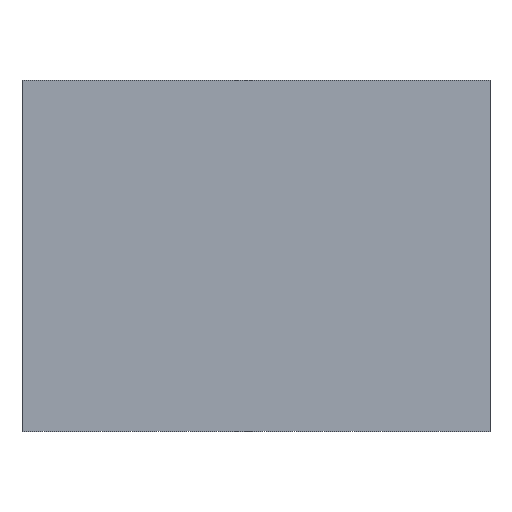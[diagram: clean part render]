
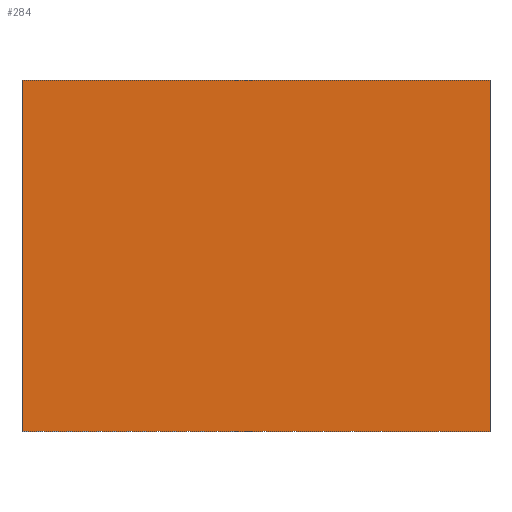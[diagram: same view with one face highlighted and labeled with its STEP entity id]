
A CAD part, left-side view. The second image highlights one B-rep face of the part: STEP entity #284.
In plain terms, the highlighted planar face has unit normal (-1, 0, 0).
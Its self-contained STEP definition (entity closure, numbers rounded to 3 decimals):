
#21 = EDGE_CURVE('',#22,#24,#26,.T.);
#22 = VERTEX_POINT('',#23);
#23 = CARTESIAN_POINT('',(278.258,-84.913,12.828
    ));
#24 = VERTEX_POINT('',#25);
#25 = CARTESIAN_POINT('',(278.258,-84.913,18.828
    ));
#26 = SURFACE_CURVE('',#27,(#31,#43),.PCURVE_S1.);
#27 = LINE('',#28,#29);
#28 = CARTESIAN_POINT('',(278.258,-84.913,12.828
    ));
#29 = VECTOR('',#30,1.);
#30 = DIRECTION('',(0.,0.,1.));
#31 = PCURVE('',#32,#37);
#32 = PLANE('',#33);
#33 = AXIS2_PLACEMENT_3D('',#34,#35,#36);
#34 = CARTESIAN_POINT('',(278.258,-84.913,12.828
    ));
#35 = DIRECTION('',(0.,1.,0.));
#36 = DIRECTION('',(1.,0.,0.));
#37 = DEFINITIONAL_REPRESENTATION('',(#38),#42);
#38 = LINE('',#39,#40);
#39 = CARTESIAN_POINT('',(0.,0.));
#40 = VECTOR('',#41,1.);
#41 = DIRECTION('',(0.,-1.));
#42 = ( GEOMETRIC_REPRESENTATION_CONTEXT(2) 
PARAMETRIC_REPRESENTATION_CONTEXT() REPRESENTATION_CONTEXT('2D SPACE',''
  ) );
#43 = PCURVE('',#44,#49);
#44 = PLANE('',#45);
#45 = AXIS2_PLACEMENT_3D('',#46,#47,#48);
#46 = CARTESIAN_POINT('',(278.258,-92.913,12.828
    ));
#47 = DIRECTION('',(-1.,0.,0.));
#48 = DIRECTION('',(0.,1.,0.));
#49 = DEFINITIONAL_REPRESENTATION('',(#50),#54);
#50 = LINE('',#51,#52);
#51 = CARTESIAN_POINT('',(8.,0.));
#52 = VECTOR('',#53,1.);
#53 = DIRECTION('',(0.,-1.));
#54 = ( GEOMETRIC_REPRESENTATION_CONTEXT(2) 
PARAMETRIC_REPRESENTATION_CONTEXT() REPRESENTATION_CONTEXT('2D SPACE',''
  ) );
#72 = PLANE('',#73);
#73 = AXIS2_PLACEMENT_3D('',#74,#75,#76);
#74 = CARTESIAN_POINT('',(279.129,-88.913,
    18.828));
#75 = DIRECTION('',(-0.,-0.,-1.));
#76 = DIRECTION('',(-1.,0.,0.));
#126 = PLANE('',#127);
#127 = AXIS2_PLACEMENT_3D('',#128,#129,#130);
#128 = CARTESIAN_POINT('',(279.129,-88.913,
    12.828));
#129 = DIRECTION('',(-0.,-0.,-1.));
#130 = DIRECTION('',(-1.,0.,0.));
#181 = PLANE('',#182);
#182 = AXIS2_PLACEMENT_3D('',#183,#184,#185);
#183 = CARTESIAN_POINT('',(280.,-92.913,12.828));
#184 = DIRECTION('',(0.,-1.,0.));
#185 = DIRECTION('',(-1.,0.,0.));
#219 = VERTEX_POINT('',#220);
#220 = CARTESIAN_POINT('',(278.258,-92.913,
    18.828));
#241 = EDGE_CURVE('',#242,#219,#244,.T.);
#242 = VERTEX_POINT('',#243);
#243 = CARTESIAN_POINT('',(278.258,-92.913,
    12.828));
#244 = SURFACE_CURVE('',#245,(#249,#256),.PCURVE_S1.);
#245 = LINE('',#246,#247);
#246 = CARTESIAN_POINT('',(278.258,-92.913,
    12.828));
#247 = VECTOR('',#248,1.);
#248 = DIRECTION('',(0.,0.,1.));
#249 = PCURVE('',#181,#250);
#250 = DEFINITIONAL_REPRESENTATION('',(#251),#255);
#251 = LINE('',#252,#253);
#252 = CARTESIAN_POINT('',(1.742,0.));
#253 = VECTOR('',#254,1.);
#254 = DIRECTION('',(0.,-1.));
#255 = ( GEOMETRIC_REPRESENTATION_CONTEXT(2) 
PARAMETRIC_REPRESENTATION_CONTEXT() REPRESENTATION_CONTEXT('2D SPACE',''
  ) );
#256 = PCURVE('',#44,#257);
#257 = DEFINITIONAL_REPRESENTATION('',(#258),#262);
#258 = LINE('',#259,#260);
#259 = CARTESIAN_POINT('',(0.,0.));
#260 = VECTOR('',#261,1.);
#261 = DIRECTION('',(0.,-1.));
#262 = ( GEOMETRIC_REPRESENTATION_CONTEXT(2) 
PARAMETRIC_REPRESENTATION_CONTEXT() REPRESENTATION_CONTEXT('2D SPACE',''
  ) );
#284 = ADVANCED_FACE('',(#285),#44,.T.);
#285 = FACE_BOUND('',#286,.T.);
#286 = EDGE_LOOP('',(#287,#288,#309,#310));
#287 = ORIENTED_EDGE('',*,*,#241,.T.);
#288 = ORIENTED_EDGE('',*,*,#289,.T.);
#289 = EDGE_CURVE('',#219,#24,#290,.T.);
#290 = SURFACE_CURVE('',#291,(#295,#302),.PCURVE_S1.);
#291 = LINE('',#292,#293);
#292 = CARTESIAN_POINT('',(278.258,-92.913,
    18.828));
#293 = VECTOR('',#294,1.);
#294 = DIRECTION('',(0.,1.,0.));
#295 = PCURVE('',#44,#296);
#296 = DEFINITIONAL_REPRESENTATION('',(#297),#301);
#297 = LINE('',#298,#299);
#298 = CARTESIAN_POINT('',(0.,-6.));
#299 = VECTOR('',#300,1.);
#300 = DIRECTION('',(1.,0.));
#301 = ( GEOMETRIC_REPRESENTATION_CONTEXT(2) 
PARAMETRIC_REPRESENTATION_CONTEXT() REPRESENTATION_CONTEXT('2D SPACE',''
  ) );
#302 = PCURVE('',#72,#303);
#303 = DEFINITIONAL_REPRESENTATION('',(#304),#308);
#304 = LINE('',#305,#306);
#305 = CARTESIAN_POINT('',(0.871,-4.));
#306 = VECTOR('',#307,1.);
#307 = DIRECTION('',(0.,1.));
#308 = ( GEOMETRIC_REPRESENTATION_CONTEXT(2) 
PARAMETRIC_REPRESENTATION_CONTEXT() REPRESENTATION_CONTEXT('2D SPACE',''
  ) );
#309 = ORIENTED_EDGE('',*,*,#21,.F.);
#310 = ORIENTED_EDGE('',*,*,#311,.F.);
#311 = EDGE_CURVE('',#242,#22,#312,.T.);
#312 = SURFACE_CURVE('',#313,(#317,#324),.PCURVE_S1.);
#313 = LINE('',#314,#315);
#314 = CARTESIAN_POINT('',(278.258,-92.913,
    12.828));
#315 = VECTOR('',#316,1.);
#316 = DIRECTION('',(0.,1.,0.));
#317 = PCURVE('',#44,#318);
#318 = DEFINITIONAL_REPRESENTATION('',(#319),#323);
#319 = LINE('',#320,#321);
#320 = CARTESIAN_POINT('',(0.,0.));
#321 = VECTOR('',#322,1.);
#322 = DIRECTION('',(1.,0.));
#323 = ( GEOMETRIC_REPRESENTATION_CONTEXT(2) 
PARAMETRIC_REPRESENTATION_CONTEXT() REPRESENTATION_CONTEXT('2D SPACE',''
  ) );
#324 = PCURVE('',#126,#325);
#325 = DEFINITIONAL_REPRESENTATION('',(#326),#330);
#326 = LINE('',#327,#328);
#327 = CARTESIAN_POINT('',(0.871,-4.));
#328 = VECTOR('',#329,1.);
#329 = DIRECTION('',(0.,1.));
#330 = ( GEOMETRIC_REPRESENTATION_CONTEXT(2) 
PARAMETRIC_REPRESENTATION_CONTEXT() REPRESENTATION_CONTEXT('2D SPACE',''
  ) );
